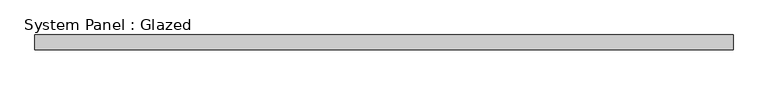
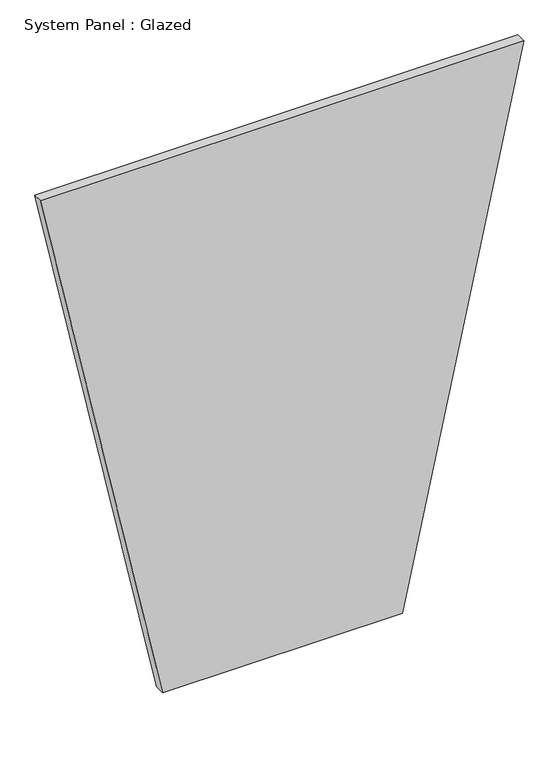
"""IFC4 building model written with IfcOpenShell, lengths in millimetres: plate geometry, System Panel : Glazed."""

from ifc_helpers import new_model, si_unit, frame, origin, place, context, project, spatial, polyline, outline, extrude, source, transform, mapped, element, save


def system_panel_glazed_a28302a5(model_context):
    return source(origin(), model_context, "Body", "SweptSolid", [
        extrude(outline(polyline([(0.0, -297.5713635), (0.0, 297.5713635), (1394.3114777, 599.1243626), (1394.3114777, -599.1243626), (0.0, -297.5713635)])), frame((0.0, -44.45, 0.0), z_axis=(0.0, 1.0, 0.0), x_axis=(0.0, 0.0, 1.0)), (0.0, 0.0, 1.0), 25.4),
    ])


if __name__ == "__main__":
    model = new_model("IFC4")
    model_context = context("Model", 3, world=origin())
    ifc_project = project(units=[si_unit("LENGTHUNIT", "METRE", prefix="MILLI")], contexts=[model_context])
    site = spatial("IfcSite", under=ifc_project)
    building = spatial("IfcBuilding", under=site)
    placement = place(None, origin())
    system_panel_glazed_shape = system_panel_glazed_a28302a5(model_context)
    element("IfcPlate", 1, ObjectType="System Panel : Glazed", at=placement, inside=building, context=model_context, shape_type="MappedRepresentation", body=[
        mapped(system_panel_glazed_shape, transform((0.0, 0.0, 0.0), x_axis=(1.0, 0.0, 0.0), y_axis=(0.0, 1.0, 0.0), z_axis=(0.0, 0.0, 1.0))),
    ])
    save(model, "model.ifc")
